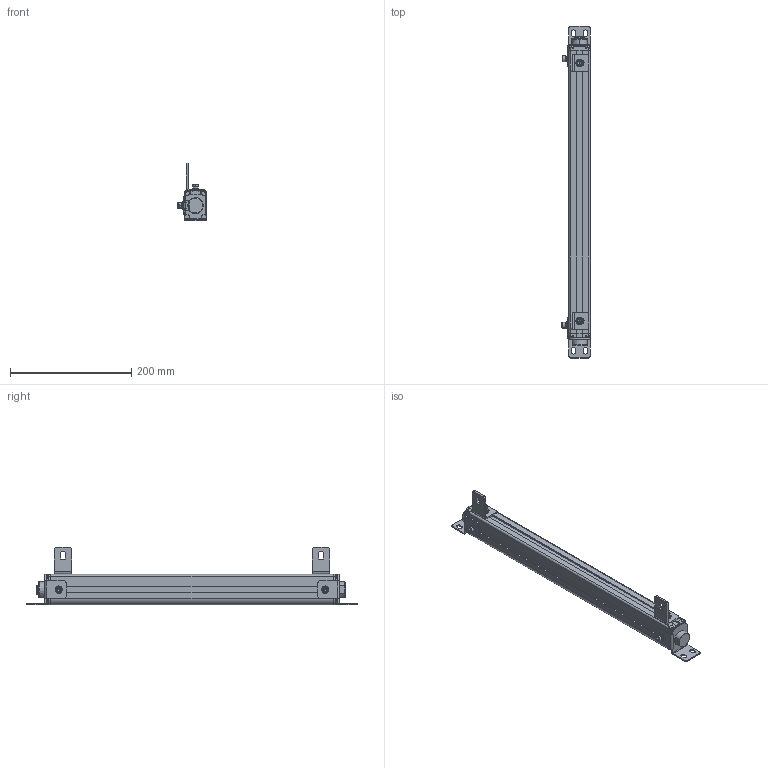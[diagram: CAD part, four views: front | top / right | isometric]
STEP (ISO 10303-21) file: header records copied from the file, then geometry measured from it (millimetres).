
FILE_DESCRIPTION((''),'2;1');
FILE_NAME('ESN--000_ASM','2021-08-10T21:16:27',('18720616900'),(''),'CREO PARAMETRIC BY PTC INC, 2019010','CREO PARAMETRIC BY PTC INC, 2019010','');
FILE_SCHEMA(('CONFIG_CONTROL_DESIGN'));
Length unit declared in the file: millimetre
Products named in the file (22): 00; 000; _0001; 4000; 4--0001; ESN_40001_ASM; L10001; M6-8--0001; M6-1--00; M6-1-00; M6-80001_ASM; L1--0001_ASM; _0002; 0005; ST-3-120001; H1--000; H1--0001_ASM; H1--0003_ASM; ESN--000_ASM
Assembly tree (34 placements, depth 4):
  ESN--000_ASM
    00
    000
    _0001
    000
    ESN_40001_ASM
      4000
      4--0001  x4
    L1--0001_ASM  x2
      L10001
      M6-80001_ASM
        M6-8--0001
        M6-1--00
        M6-1-00
        00
    _0002
    0005
    ST-3-120001  x8
    H1--0001_ASM
      H1--000
      M6-80001_ASM
        M6-8--0001
        M6-1--00
        M6-1-00
        00
    H1--0003_ASM
      H1--000
      M6-80001_ASM
        M6-8--0001
        M6-1--00
        M6-1-00
        00
Bounding box: 46.5 x 547 x 94.95 mm (x, y, z)
Volume: 756202.2 mm3; surface area: 179138 mm2
Topology: 39 solids, 39 shells, 1727 faces, 4555 edges, 2925 vertices
Faces by surface type: plane 541, cylinder 404, bspline 362, cone 291, torus 105, sphere 24
Entity records: 45714 total; most frequent: CARTESIAN_POINT 24222, ORIENTED_EDGE 4766, DIRECTION 3842, EDGE_CURVE 2383, VERTEX_POINT 1546, AXIS2_PLACEMENT_3D 1400, VECTOR 1042, LINE 1042
